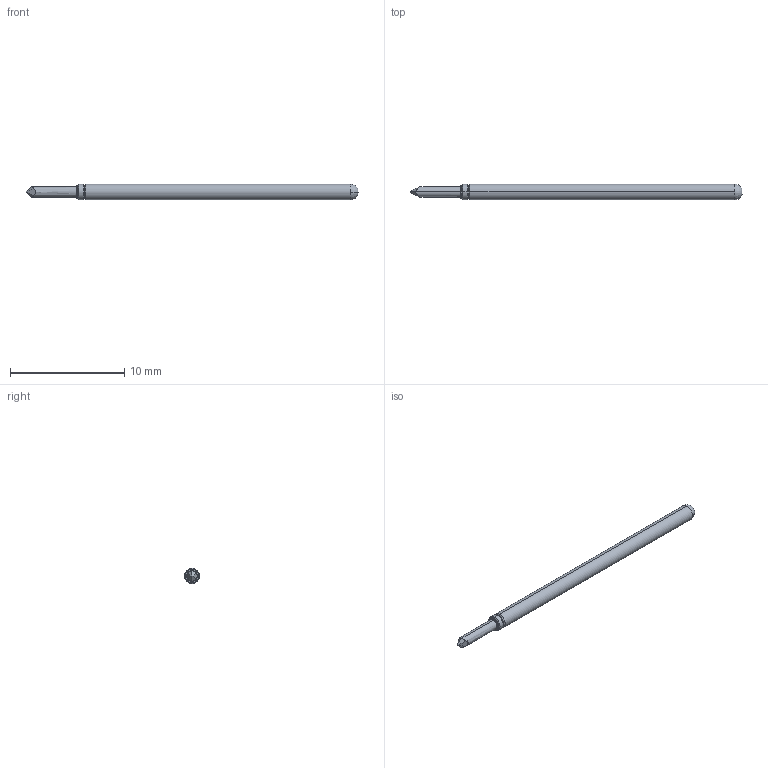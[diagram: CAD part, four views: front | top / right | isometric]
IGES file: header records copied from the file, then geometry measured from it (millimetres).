
Start section: SolidWorks IGES file using analytic representation for surfaces
Global section: file name: Z:\probe solid model mockups\Solidworks models\LTP-25\LTP-25I8 RECD.IGS; native system: SolidWorks 2006 by SolidWorks Corporation; preprocessor: SolidWorks 2006 by SolidWorks Corporation; author: tsakatani; date: 071214.143144; units: inch
Bounding box: 29.08 x 1.37 x 1.37 mm (x, y, z)
Surface area: 119.2 mm2 (no closed solid volume)
Topology: 0 solids, 0 shells, 24 faces, 170 edges, 170 vertices
Faces by surface type: bspline 12, revolution 12
